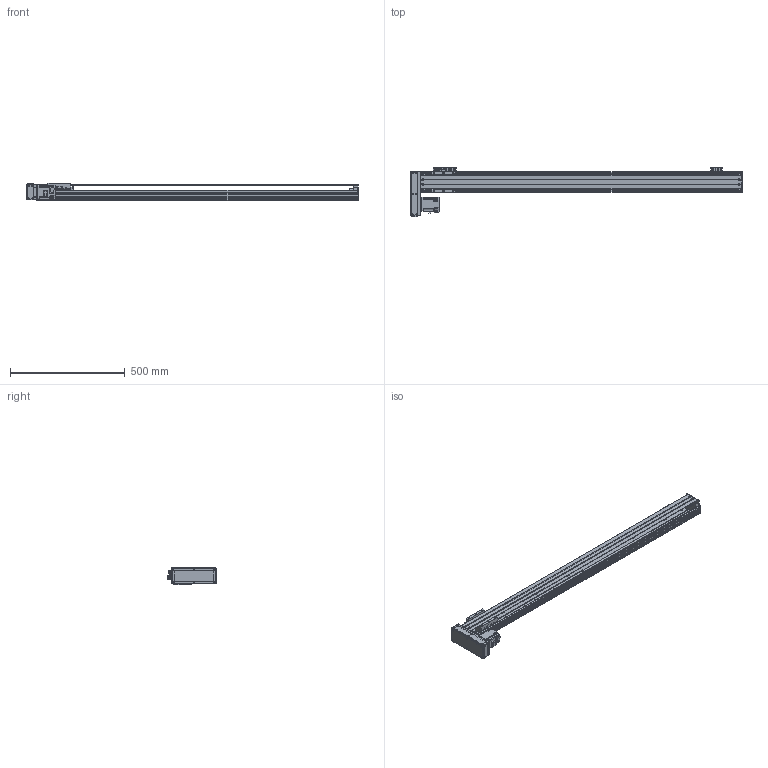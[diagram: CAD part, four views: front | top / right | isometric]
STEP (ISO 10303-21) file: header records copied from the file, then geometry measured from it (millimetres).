
FILE_DESCRIPTION(/* description */ (''),/* implementation_level */ '2;1');
FILE_NAME(/* name */ '\\192.168.0.160\disk1\HAN SHIN Master\B-설계부문\C-표준\B-2024년\BC02-표준도면\+로봇 개선표준도면\표준 승인도 작업 폴더\3D\HG90\HG90병렬\우병렬\HG90-R20-N1B-1200-L10.stp',/* time_stamp */ '2024-02-19T15:04:39+09:00',/* author */ ('User'),/* organization */ (''),/* preprocessor_version */ 'ST-DEVELOPER v18.1',/* originating_system */ 'Autodesk Inventor 2022',/* authorisation */ '');
FILE_SCHEMA (('AUTOMOTIVE_DESIGN { 1 0 10303 214 3 1 1 }'));
Length unit declared in the file: millimetre
Products named in the file (24): HG90-L20-N1B-0500-R10; HR90 BASE 100W 1BLOCK; HR90 FRONT BLOCK; HR90 REAR BLOCK TENSION; HR90 REAR COVER-TENSION; HG4UPCOV002; HG90STOPPER - 27L; HG90STOPPER - 20L; MOTOR PLATE-200W(MITSUBISHI); hg-kr23_; 화살표; HR65-LR-BELT COVER; HC90-BELT COVER-COVER3; M-5HL-4; HR90 TABLE; LMKE1520 NUT; HR75-D-BELT COVER-COVER; HC90-BELT COVER-COVER2; HC90-LR-MOTOR PLATE(200W)-사출_MIR; HR120 SENSOR DOG; SENSOR BRK(EE-SX674A); EE_SX674A; hsr_ftht_A-M6F_grease_nipple_joint; NIPPLE CAP(신규)
Assembly tree (31 placements, depth 2):
  HG90-L20-N1B-0500-R10
    HR90 BASE 100W 1BLOCK
    HR90 FRONT BLOCK
    HR90 REAR BLOCK TENSION
    HR90 REAR COVER-TENSION
    HG4UPCOV002
    HG90STOPPER - 27L
    HG90STOPPER - 20L
    MOTOR PLATE-200W(MITSUBISHI)
    hg-kr23_
    화살표  x2
    HC90-BELT COVER-COVER3  x2
    HR65-LR-BELT COVER
    M-5HL-4
    HR90 TABLE
    LMKE1520 NUT
    HR75-D-BELT COVER-COVER
    HC90-BELT COVER-COVER2
    HC90-LR-MOTOR PLATE(200W)-사출_MIR
    EE_SX674A  x3
    SENSOR BRK(EE-SX674A)  x3
    HR120 SENSOR DOG
    hsr_ftht_A-M6F_grease_nipple_joint  x2
    NIPPLE CAP(신규)  x2
Bounding box: 1449 x 215 x 75 mm (x, y, z)
Volume: 2604283.7 mm3; surface area: 1103263.6 mm2
Topology: 31 solids, 31 shells, 1593 faces, 4216 edges, 2761 vertices
Faces by surface type: plane 761, cylinder 650, cone 138, sphere 24, torus 12, bspline 8
Full cylindrical faces by diameter (mm): 1.8 x1, 2 x4, 2.459 x38, 2.5 x2, 3 x8, 3.242 x25, 3.4 x20, 3.5 x6, 4 x4, 4.134 x59, 4.5 x16, 4.917 x5, 5 x29, 5.5 x34, 5.6 x10, 5.8 x4, 5.9 x8, 6 x6, 6.5 x5, 7 x1, 8 x1, 9.5 x30, 14 x1, 15 x3, 17 x1, 20 x1, 22 x1, 25 x1, 28 x1, 32 x2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
Entity records: 43379 total; most frequent: CARTESIAN_POINT 8216, DIRECTION 7310, ORIENTED_EDGE 6808, EDGE_CURVE 3404, AXIS2_PLACEMENT_3D 2672, VERTEX_POINT 2262, LINE 1966, VECTOR 1966
